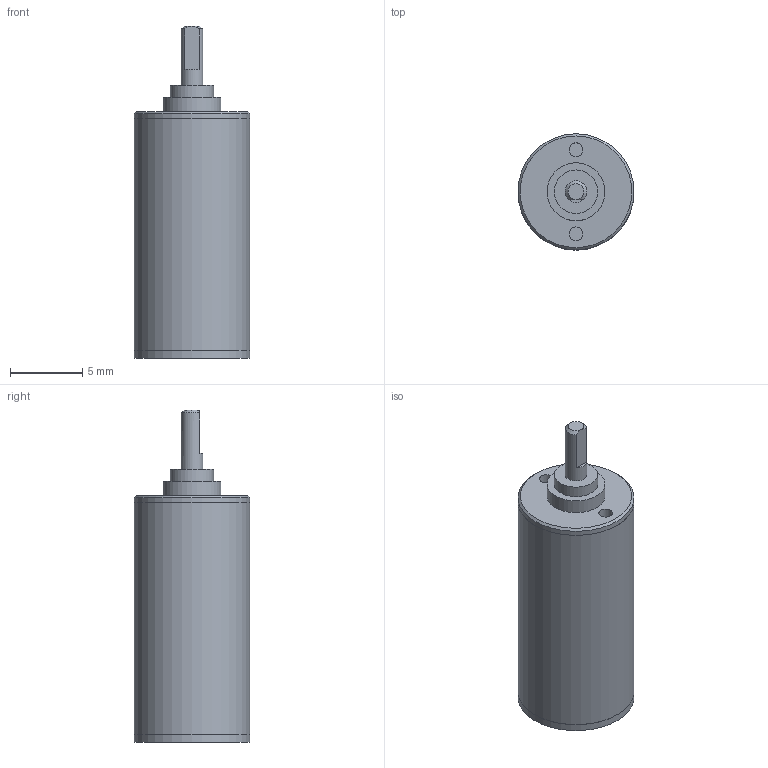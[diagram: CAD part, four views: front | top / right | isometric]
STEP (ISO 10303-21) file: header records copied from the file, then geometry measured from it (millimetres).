
FILE_DESCRIPTION(/* description */ (''),/* implementation_level */ '2;1');
FILE_NAME(/* name */ '08-2K_5.stp',/* time_stamp */ '2016-08-23T14:19:53+02:00',/* author */ ('DR. FRITZ FAULHABER GmbH & Co. KG'),/* organization */ ('DR. FRITZ FAULHABER GmbH & Co. KG'),/* preprocessor_version */ 'ST-DEVELOPER v16',/* originating_system */ 'SIEMENS PLM Software NX 10.0',/* authorisation */ '');
FILE_SCHEMA (('AUTOMOTIVE_DESIGN { 1 0 10303 214 3 1 1 1 }'));
Length unit declared in the file: millimetre
Products named in the file (1): H00000399_A
Bounding box: 8 x 8 x 22.9 mm (x, y, z)
Volume: 808.4 mm3; surface area: 634.2 mm2
Topology: 1 solids, 1 shells, 33 faces, 56 edges, 37 vertices
Faces by surface type: plane 16, cylinder 14, cone 3
Full cylindrical faces by diameter (mm): 0.95 x2, 1.5 x1, 2.13 x1, 2.53 x1, 3 x1, 4 x1, 4.959 x1, 6 x1, 7.99 x2, 8 x3
Entity records: 709 total; most frequent: DIRECTION 133, CARTESIAN_POINT 115, ORIENTED_EDGE 72, AXIS2_PLACEMENT_3D 65, EDGE_LOOP 61, FACE_BOUND 54, EDGE_CURVE 36, ADVANCED_FACE 33
